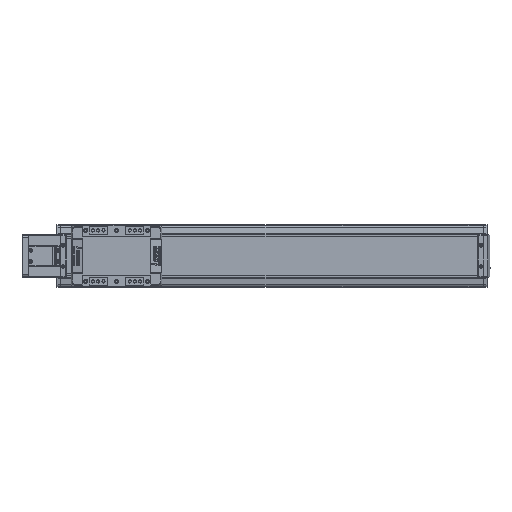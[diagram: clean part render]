
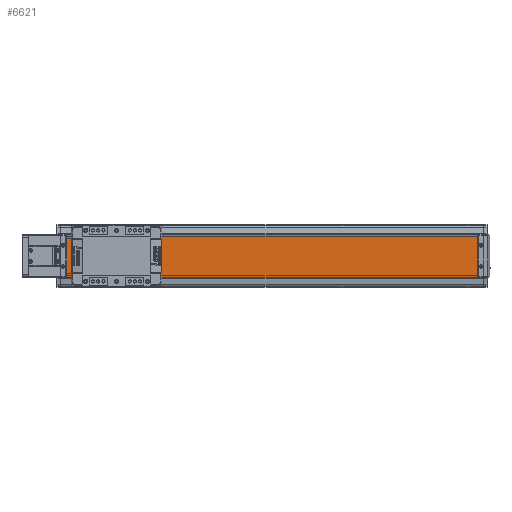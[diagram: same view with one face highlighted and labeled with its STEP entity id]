
A CAD part, top view. The second image highlights one B-rep face of the part: STEP entity #6621.
In plain terms, the highlighted planar face has unit normal (0, 0, 1).
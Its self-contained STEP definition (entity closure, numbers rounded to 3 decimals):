
#6621=ADVANCED_FACE('',(#13822),#13823,.T.);
#13822=FACE_OUTER_BOUND('',#22393,.T.);
#13823=PLANE('',#22394);
#22393=EDGE_LOOP('',(#41614,#41615,#41616,#41617));
#22394=AXIS2_PLACEMENT_3D('',#41618,#41619,#41620);
#41614=ORIENTED_EDGE('',*,*,#49716,.T.);
#41615=ORIENTED_EDGE('',*,*,#50821,.F.);
#41616=ORIENTED_EDGE('',*,*,#54373,.T.);
#41617=ORIENTED_EDGE('',*,*,#54374,.T.);
#41618=CARTESIAN_POINT('',(-580.,0.,20.15));
#41619=DIRECTION('',(0.,0.,1.0));
#41620=DIRECTION('',(0.,-1.0,0.));
#49716=EDGE_CURVE('',#60778,#60782,#60784,.T.);
#50821=EDGE_CURVE('',#62498,#60782,#62500,.T.);
#54373=EDGE_CURVE('',#62498,#67218,#67219,.T.);
#54374=EDGE_CURVE('',#67218,#60778,#67220,.T.);
#60778=VERTEX_POINT('',#76111);
#60782=VERTEX_POINT('',#76117);
#60784=LINE('',#76120,#76121);
#62498=VERTEX_POINT('',#78540);
#62500=LINE('',#78543,#78544);
#67218=VERTEX_POINT('',#85238);
#67219=LINE('',#85239,#85240);
#67220=LINE('',#85241,#85242);
#76111=CARTESIAN_POINT('',(100.,-35.,20.15));
#76117=CARTESIAN_POINT('',(100.,35.,20.15));
#76120=CARTESIAN_POINT('',(100.,35.,20.15));
#76121=VECTOR('',#91045,10.0);
#78540=CARTESIAN_POINT('',(-580.,35.,20.15));
#78543=CARTESIAN_POINT('',(-580.,35.,20.15));
#78544=VECTOR('',#92537,10.0);
#85238=CARTESIAN_POINT('',(-580.,-35.,20.15));
#85239=CARTESIAN_POINT('',(-580.,35.,20.15));
#85240=VECTOR('',#97028,10.0);
#85241=CARTESIAN_POINT('',(-580.,-35.,20.15));
#85242=VECTOR('',#97029,10.0);
#91045=DIRECTION('',(0.,1.0,0.));
#92537=DIRECTION('',(1.0,0.,0.));
#97028=DIRECTION('',(0.,-1.0,0.));
#97029=DIRECTION('',(1.0,0.,0.));
